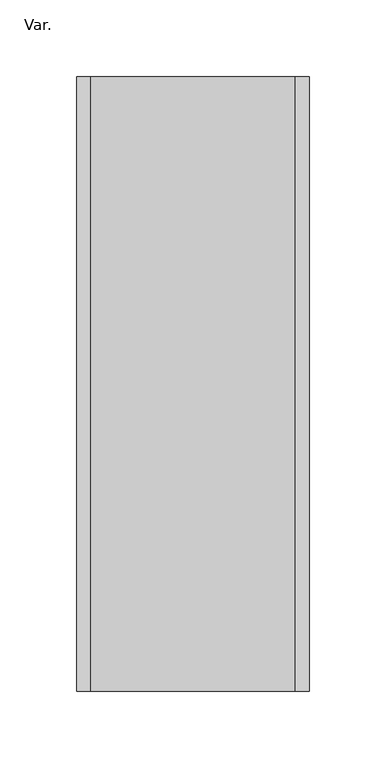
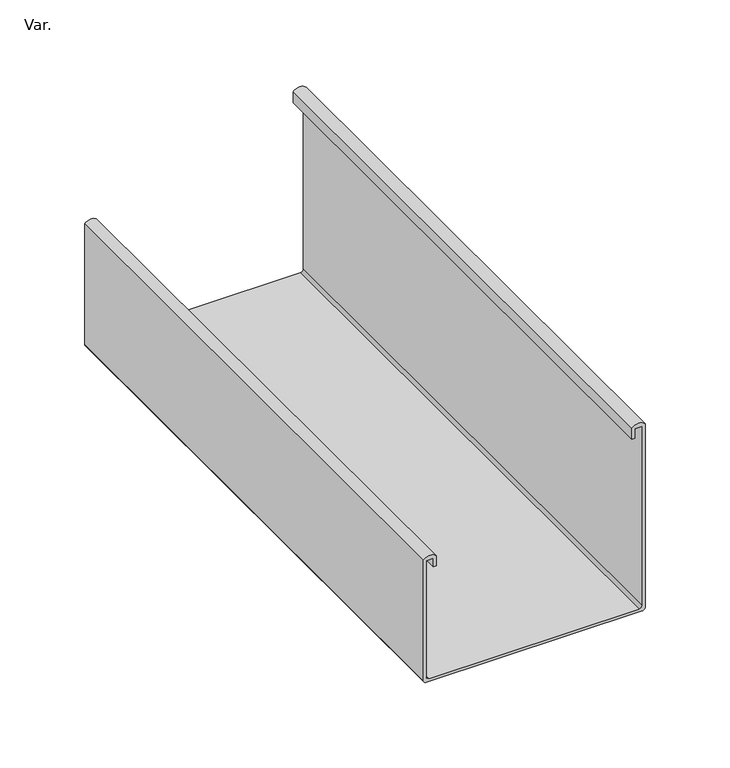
"""IFC4 building model written with IfcOpenShell, lengths in millimetres: pipe fitting geometry, AmancoWavin_Unionesdetubería_CanalesyBajantesZ_NoUsarCanoaAltoCaudal : Var.."""

from ifc_helpers import new_model, si_unit, point, frame, frame_2d, origin, place, context, project, spatial, polyline, circle_curve, trimmed, segment, composite_curve, outline, extrude, source, transform, mapped, element, save


def var_6a521551(model_context):
    return source(origin(), model_context, "Body", "SweptSolid", [
        extrude(outline(composite_curve([segment(polyline([(4.04, -73.58), (87.7357853, -73.58), (87.7357853, -68.9), (81.7, -68.9), (81.7, -66.88), (88.7531357, -66.88)]), True, "CONTINUOUS"), segment(trimmed(circle_curve(frame_2d((84.9336297, -71.2)), 5.7663703), [point((88.7531357, -66.88))], [point((88.6606964, -75.6))], False, "CARTESIAN"), True, "CONTINUOUS"), segment(polyline([(88.6606964, -75.6), (2.02, -75.6)]), True, "CONTINUOUS"), segment(trimmed(circle_curve(frame_2d((2.02, -73.58)), 2.02), [point((2.02, -75.6))], [point((0.0, -73.58))], False, "CARTESIAN"), True, "CONTINUOUS"), segment(polyline([(0.0, -73.58), (0.0, 73.58)]), True, "CONTINUOUS"), segment(trimmed(circle_curve(frame_2d((2.02, 73.58)), 2.02), [point((0.0, 73.58))], [point((2.02, 75.6))], False, "CARTESIAN"), True, "CONTINUOUS"), segment(polyline([(2.02, 75.6), (134.2358419, 75.6)]), True, "CONTINUOUS"), segment(trimmed(circle_curve(frame_2d((129.5202264, 71.04)), 6.5597736), [point((134.2358419, 75.6))], [point((134.2358419, 66.48))], False, "CARTESIAN"), True, "CONTINUOUS"), segment(polyline([(134.2358419, 66.48), (126.23, 66.48), (126.23, 68.5), (133.0801189, 68.5), (133.0801189, 73.58), (4.04, 73.58)]), True, "CONTINUOUS"), segment(trimmed(circle_curve(frame_2d((4.04, 71.56)), 2.02), [point((4.04, 73.58))], [point((2.02, 71.56))], True, "CARTESIAN"), True, "CONTINUOUS"), segment(polyline([(2.02, 71.56), (2.02, -71.56)]), True, "CONTINUOUS"), segment(trimmed(circle_curve(frame_2d((4.04, -71.56)), 2.02), [point((2.02, -71.56))], [point((4.04, -73.58))], True, "CARTESIAN"), True, "CONTINUOUS")], self_intersect=False)), frame((0.0, 0.0, 0.0), z_axis=(0.0, 1.0, 0.0), x_axis=(0.0, 0.0, 1.0)), (0.0, 0.0, 1.0), 400.0),
    ])


if __name__ == "__main__":
    model = new_model("IFC4")
    model_context = context("Model", 3, world=origin())
    ifc_project = project(units=[si_unit("LENGTHUNIT", "METRE", prefix="MILLI")], contexts=[model_context])
    site = spatial("IfcSite", under=ifc_project)
    building = spatial("IfcBuilding", under=site)
    placement = place(None, origin())
    var_shape = var_6a521551(model_context)
    element("IfcPipeFitting", 1, ObjectType="AmancoWavin_Unionesdetubería_CanalesyBajantesZ_NoUsarCanoaAltoCaudal : Var.", at=placement, inside=building, context=model_context, shape_type="MappedRepresentation", body=[
        mapped(var_shape, transform((0.0, 0.0, 0.0), x_axis=(1.0, 0.0, 0.0), y_axis=(0.0, 1.0, 0.0), z_axis=(0.0, 0.0, 1.0))),
    ])
    save(model, "model.ifc")
